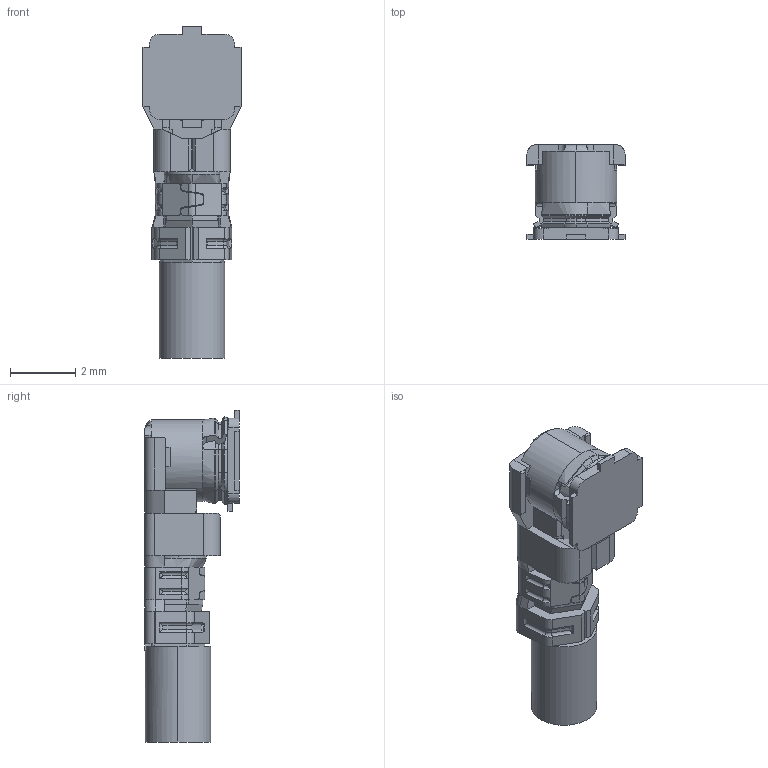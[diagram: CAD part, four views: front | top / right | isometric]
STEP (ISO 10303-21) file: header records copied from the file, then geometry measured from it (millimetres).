
FILE_DESCRIPTION (( 'STEP AP203' ), '1' );
FILE_NAME ('20279-001E-xx+20767-001R-20C MATING R9R3 ALL.STEP', '2018-11-29T09:12:36', ( '' ), ( '' ), 'SwSTEP 2.0', 'SolidWorks 2017', '' );
FILE_SCHEMA (( 'CONFIG_CONTROL_DESIGN' ));
Length unit declared in the file: millimetre
Products named in the file (1): 20279-001E-xx+20767-001R-20C MATING R9R3 ALL
Bounding box: 3 x 2.9 x 10.15 mm (x, y, z)
Volume: 42.1 mm3; surface area: 120 mm2
Topology: 1 solids, 1 shells, 479 faces, 1315 edges, 835 vertices
Faces by surface type: plane 235, cylinder 146, bspline 58, cone 24, torus 16
Entity records: 18056 total; most frequent: CARTESIAN_POINT 6417, ORIENTED_EDGE 2630, DIRECTION 2130, EDGE_CURVE 1315, VERTEX_POINT 835, LINE 792, VECTOR 792, AXIS2_PLACEMENT_3D 669
